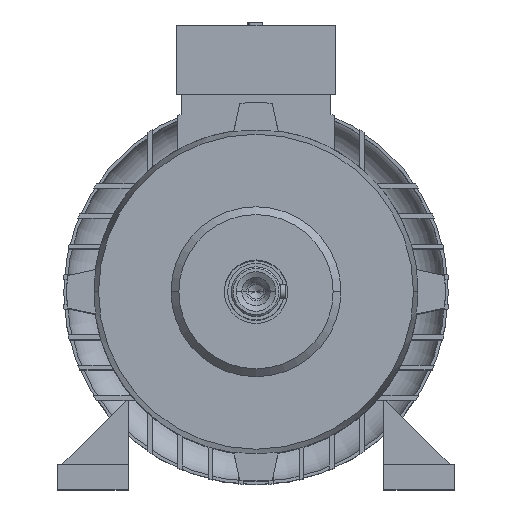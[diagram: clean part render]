
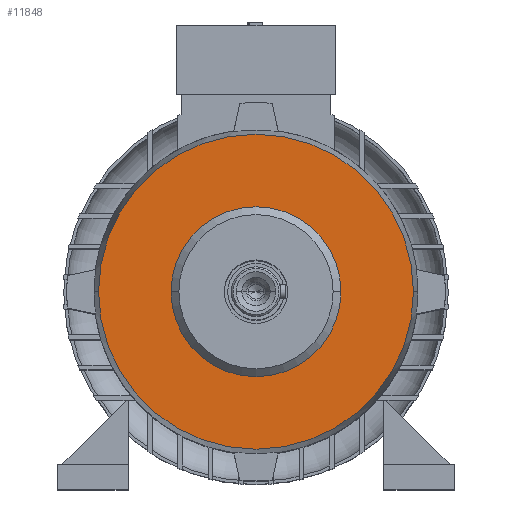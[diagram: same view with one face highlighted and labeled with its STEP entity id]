
A CAD part, top view. The second image highlights one B-rep face of the part: STEP entity #11848.
In plain terms, the highlighted planar face has unit normal (0, 0, 1).
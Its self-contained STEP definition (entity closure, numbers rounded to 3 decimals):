
#338 = DIRECTION ( 'NONE',  ( 0., 0., 1. ) ) ;
#399 = FACE_OUTER_BOUND ( 'NONE', #13925, .T. ) ;
#549 = CARTESIAN_POINT ( 'NONE',  ( 0., 0., 135.52 ) ) ;
#907 = CARTESIAN_POINT ( 'NONE',  ( 0., 0., 135.52 ) ) ;
#962 = DIRECTION ( 'NONE',  ( 1., 0., 0. ) ) ;
#1187 = DIRECTION ( 'NONE',  ( 1., 0., 0. ) ) ;
#1328 = FACE_BOUND ( 'NONE', #3388, .T. ) ;
#2126 = EDGE_CURVE ( 'NONE', #5650, #13258, #2933, .T. ) ;
#2681 = CARTESIAN_POINT ( 'NONE',  ( -89.272, 0., 135.52 ) ) ;
#2933 = CIRCLE ( 'NONE', #13144, 48.18 ) ;
#3104 = AXIS2_PLACEMENT_3D ( 'NONE', #13236, #338, #8497 ) ;
#3388 = EDGE_LOOP ( 'NONE', ( #13641, #14939 ) ) ;
#3412 = CIRCLE ( 'NONE', #3104, 89.272 ) ;
#3465 = DIRECTION ( 'NONE',  ( 0., 0., -1. ) ) ;
#3530 = CARTESIAN_POINT ( 'NONE',  ( 89.272, 0., 135.52 ) ) ;
#4525 = CARTESIAN_POINT ( 'NONE',  ( 0., 89.272, 135.52 ) ) ;
#4944 = DIRECTION ( 'NONE',  ( 1., 0., 0. ) ) ;
#5398 = CARTESIAN_POINT ( 'NONE',  ( 48.18, 0., 135.52 ) ) ;
#5650 = VERTEX_POINT ( 'NONE', #5398 ) ;
#6112 = DIRECTION ( 'NONE',  ( 0., 0., 1. ) ) ;
#7476 = DIRECTION ( 'NONE',  ( 0., 0., 1. ) ) ;
#7555 = AXIS2_PLACEMENT_3D ( 'NONE', #907, #12449, #962 ) ;
#8009 = VERTEX_POINT ( 'NONE', #3530 ) ;
#8497 = DIRECTION ( 'NONE',  ( 1., 0., 0. ) ) ;
#9000 = VERTEX_POINT ( 'NONE', #2681 ) ;
#9506 = AXIS2_PLACEMENT_3D ( 'NONE', #549, #7476, #11060 ) ;
#9674 = ORIENTED_EDGE ( 'NONE', *, *, #15157, .T. ) ;
#9703 = CIRCLE ( 'NONE', #7555, 89.272 ) ;
#10057 = EDGE_CURVE ( 'NONE', #13258, #5650, #10497, .T. ) ;
#10497 = CIRCLE ( 'NONE', #9506, 48.18 ) ;
#10928 = CARTESIAN_POINT ( 'NONE',  ( 0., 0., 135.52 ) ) ;
#11060 = DIRECTION ( 'NONE',  ( 1., 0., 0. ) ) ;
#11077 = AXIS2_PLACEMENT_3D ( 'NONE', #4525, #3465, #1187 ) ;
#11848 = ADVANCED_FACE ( 'NONE', ( #399, #1328 ), #15087, .F. ) ;
#12449 = DIRECTION ( 'NONE',  ( 0., 0., 1. ) ) ;
#12472 = EDGE_CURVE ( 'NONE', #9000, #8009, #9703, .T. ) ;
#13144 = AXIS2_PLACEMENT_3D ( 'NONE', #10928, #6112, #4944 ) ;
#13236 = CARTESIAN_POINT ( 'NONE',  ( 0., 0., 135.52 ) ) ;
#13258 = VERTEX_POINT ( 'NONE', #13474 ) ;
#13474 = CARTESIAN_POINT ( 'NONE',  ( -48.18, 0., 135.52 ) ) ;
#13641 = ORIENTED_EDGE ( 'NONE', *, *, #2126, .F. ) ;
#13925 = EDGE_LOOP ( 'NONE', ( #9674, #14747 ) ) ;
#14747 = ORIENTED_EDGE ( 'NONE', *, *, #12472, .T. ) ;
#14939 = ORIENTED_EDGE ( 'NONE', *, *, #10057, .F. ) ;
#15087 = PLANE ( 'NONE',  #11077 ) ;
#15157 = EDGE_CURVE ( 'NONE', #8009, #9000, #3412, .T. ) ;
